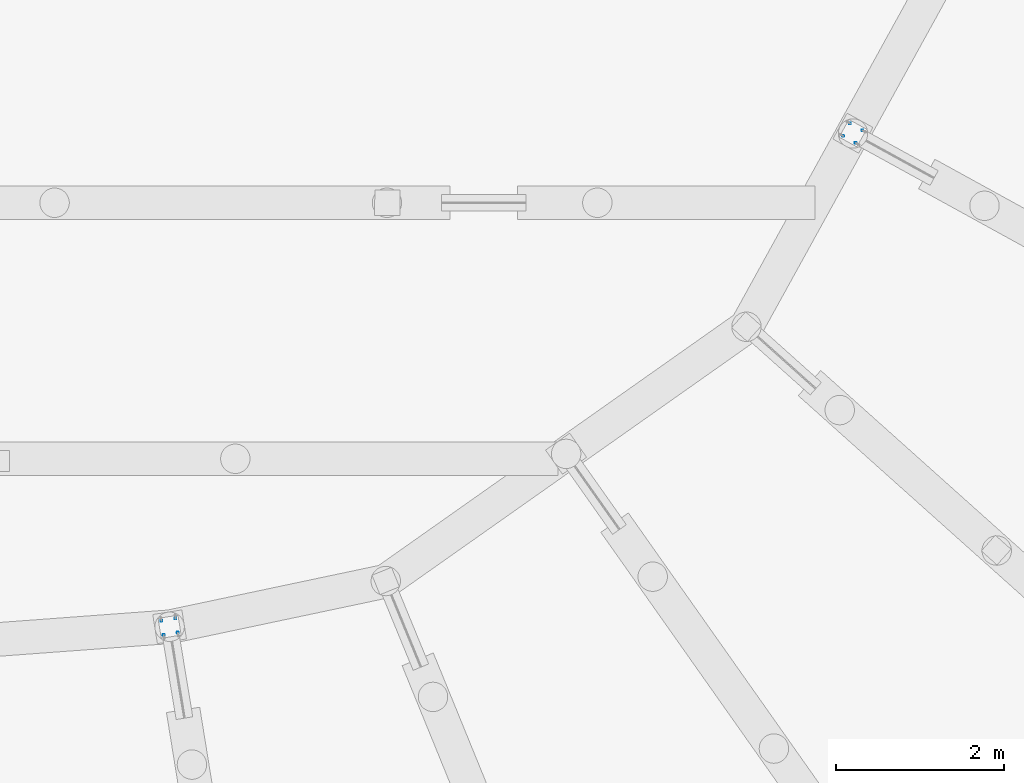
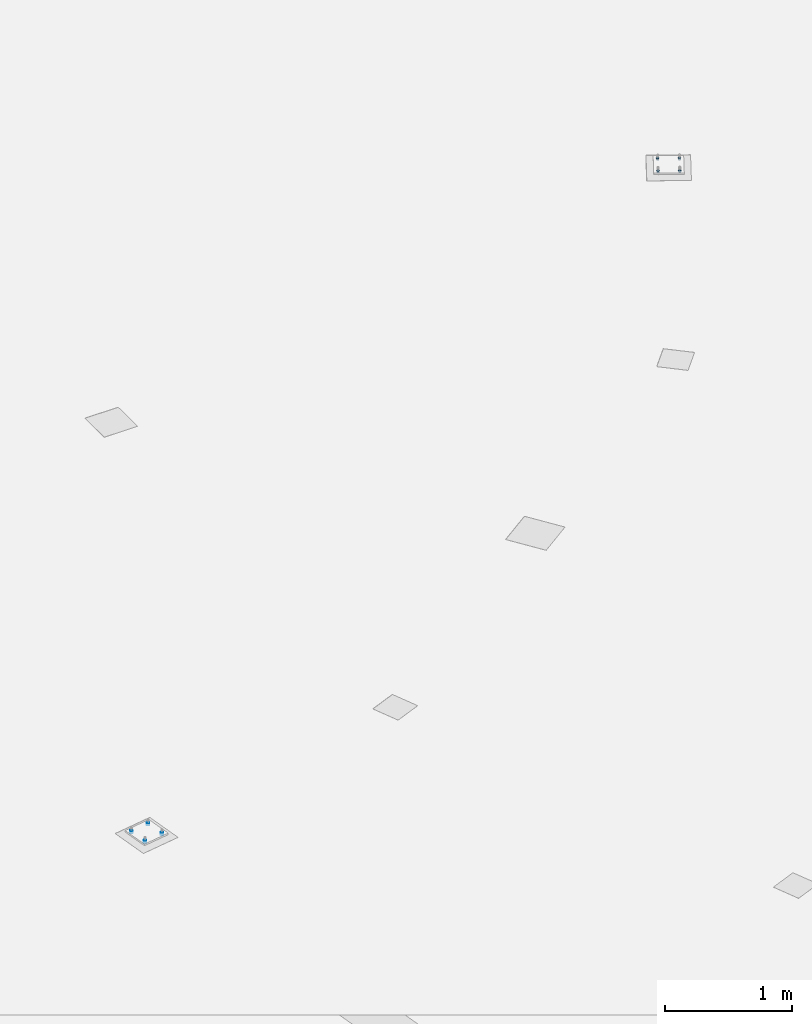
# One storey, part 11 of 22: 2 mechanical fasteners.
"""IFC2X3 building model written with IfcOpenShell, lengths in millimetres."""

from ifc_helpers import new_model, si_unit, frame, origin_with_axes, origin_2d_with_axis, place, context, subcontext, project, spatial, circle, extrude, source, transform, mapped, material, type_object, element, save


model = new_model("IFC2X3")

# Units and contexts
model_context = context("Model", 3, precision=1e-05, world=origin_with_axes())
body_context = subcontext(model_context, "Body", "Model", "MODEL_VIEW")
ifc_project = project(units=[si_unit("LENGTHUNIT", "METRE", prefix="MILLI"), si_unit("AREAUNIT", "SQUARE_METRE"), si_unit("VOLUMEUNIT", "CUBIC_METRE"), si_unit("MASSUNIT", "GRAM", prefix="KILO"), si_unit("TIMEUNIT", "SECOND"), si_unit("PLANEANGLEUNIT", "RADIAN"), si_unit("SOLIDANGLEUNIT", "STERADIAN"), si_unit("THERMODYNAMICTEMPERATUREUNIT", "DEGREE_CELSIUS"), si_unit("LUMINOUSINTENSITYUNIT", "LUMEN")], contexts=[model_context])

# Site, building, storey
site_placement = place(None, origin_with_axes())
site = spatial("IfcSite", under=ifc_project, at=site_placement, Name="Undefined", CompositionType="ELEMENT")
building_placement = place(site_placement, origin_with_axes())
building = spatial("IfcBuilding", under=site, at=building_placement, Name="Undefined", CompositionType="ELEMENT")
storey_placement = place(building_placement, origin_with_axes())
storey = spatial("IfcBuildingStorey", under=building, at=storey_placement, Name="Undefined", CompositionType="ELEMENT", Elevation=0.0)

# Mechanical fasteners
ifc_material = material(Name="Undefined")
mechanical_fastener_type = type_object("IfcMechanicalFastenerType", Name="Bolt assembly")
shared_shape = source(origin_with_axes(), body_context, "Body", "SweptSolid", [
    extrude(circle(Radius=10.0, at=origin_2d_with_axis()), frame((0.0, -15.0, 0.0), z_axis=(0.0, 1.0, 0.0), x_axis=(1.0, 0.0, 0.0)), (0.0, 0.0, 1.0), 15.1),
])
for number, where, z_axis, x_axis, name in (
    (1, (60527.3882871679, 14183.6070107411, -35.0), (-0.481556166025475, -0.876415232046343, 0.0), (0.876415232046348, -0.481556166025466, 0.0), "Bolt assembly"),
    (2, (52467.5242038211, 8360.30218613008, -35.0), (-0.987283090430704, -0.158972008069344, 0.0), (0.158972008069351, -0.987283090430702, 0.0), "Bolt assembly"),
):
    element("IfcMechanicalFastener", number, at=place(storey_placement, frame(where, z_axis=z_axis, x_axis=x_axis)), inside=storey, type_object=mechanical_fastener_type, material=ifc_material, Name=name, NominalDiameter=16.0, NominalLength=15.0, context=body_context, shape_type="MappedRepresentation", body=[
        mapped(shared_shape, transform((-0.849998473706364, 0.0, -85.0000000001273))),
        mapped(shared_shape, transform((-0.849998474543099, 0.0, 85.0000000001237))),
        mapped(shared_shape, transform((169.150001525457, 0.0, -84.9999999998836))),
        mapped(shared_shape, transform((169.15000152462, 0.0, 85.0000000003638))),
    ])

save(model, "model.ifc")
